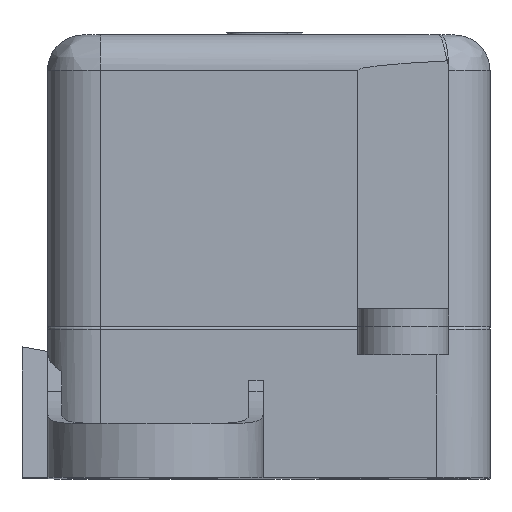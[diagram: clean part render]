
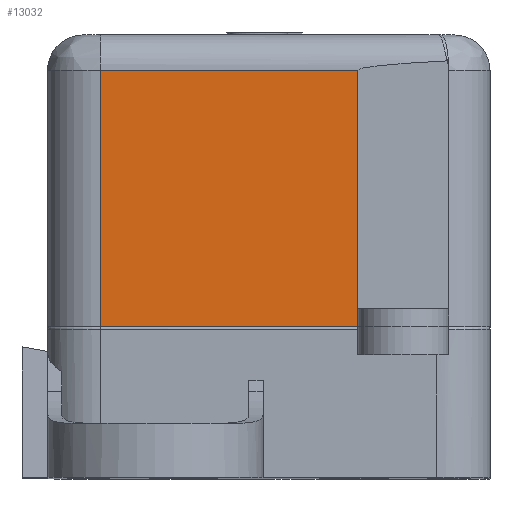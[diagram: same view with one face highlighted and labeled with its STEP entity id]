
A CAD part, top view. The second image highlights one B-rep face of the part: STEP entity #13032.
In plain terms, the highlighted planar face has unit normal (0, 0, 1) as drawn and (0, 1, 0) by its records, which use the part's own axes.
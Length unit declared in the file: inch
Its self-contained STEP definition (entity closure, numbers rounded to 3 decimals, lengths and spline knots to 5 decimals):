
#1604=FACE_OUTER_BOUND('',#2369,.T.);
#2369=EDGE_LOOP('',(#11924,#11925,#11926,#11927,#11928));
#3696=LINE('',#30660,#4921);
#3726=LINE('',#30739,#4951);
#3813=LINE('',#31380,#5038);
#3817=LINE('',#31389,#5042);
#3818=LINE('',#31392,#5043);
#4921=VECTOR('',#16507,0.3937);
#4951=VECTOR('',#16587,0.3937);
#5038=VECTOR('',#16992,0.3937);
#5042=VECTOR('',#17006,0.3937);
#5043=VECTOR('',#17011,0.3937);
#6160=VERTEX_POINT('',#30657);
#6161=VERTEX_POINT('',#30659);
#6185=VERTEX_POINT('',#30737);
#6260=VERTEX_POINT('',#31375);
#6261=VERTEX_POINT('',#31379);
#7932=EDGE_CURVE('',#6161,#6160,#3696,.T.);
#7973=EDGE_CURVE('',#6160,#6185,#3726,.T.);
#8144=EDGE_CURVE('',#6260,#6261,#3813,.T.);
#8149=EDGE_CURVE('',#6161,#6260,#3817,.T.);
#8150=EDGE_CURVE('',#6185,#6261,#3818,.T.);
#11924=ORIENTED_EDGE('',*,*,#8144,.F.);
#11925=ORIENTED_EDGE('',*,*,#8149,.F.);
#11926=ORIENTED_EDGE('',*,*,#7932,.T.);
#11927=ORIENTED_EDGE('',*,*,#7973,.T.);
#11928=ORIENTED_EDGE('',*,*,#8150,.T.);
#12322=PLANE('',#14038);
#13032=ADVANCED_FACE('',(#1604),#12322,.T.);
#14038=AXIS2_PLACEMENT_3D('',#31393,#17012,#17013);
#16507=DIRECTION('',(-1.,0.,0.));
#16587=DIRECTION('',(0.,0.,1.));
#16992=DIRECTION('',(-1.,0.,0.));
#17006=DIRECTION('',(0.,0.,1.));
#17011=DIRECTION('',(0.,0.,1.));
#17012=DIRECTION('center_axis',(0.,1.,0.));
#17013=DIRECTION('ref_axis',(-1.,0.,0.));
#30657=CARTESIAN_POINT('',(-0.314,1.709,0.));
#30659=CARTESIAN_POINT('',(0.5925,1.709,0.));
#30660=CARTESIAN_POINT('',(0.5925,1.709,0.));
#30737=CARTESIAN_POINT('',(-0.314,1.709,0.062));
#30739=CARTESIAN_POINT('',(-0.314,1.709,0.));
#31375=CARTESIAN_POINT('',(0.5925,1.709,0.903));
#31379=CARTESIAN_POINT('',(-0.314,1.709,0.903));
#31380=CARTESIAN_POINT('',(0.29592,1.709,0.903));
#31389=CARTESIAN_POINT('',(0.5925,1.709,0.));
#31392=CARTESIAN_POINT('',(-0.314,1.709,0.));
#31393=CARTESIAN_POINT('Origin',(0.5925,1.709,0.));
